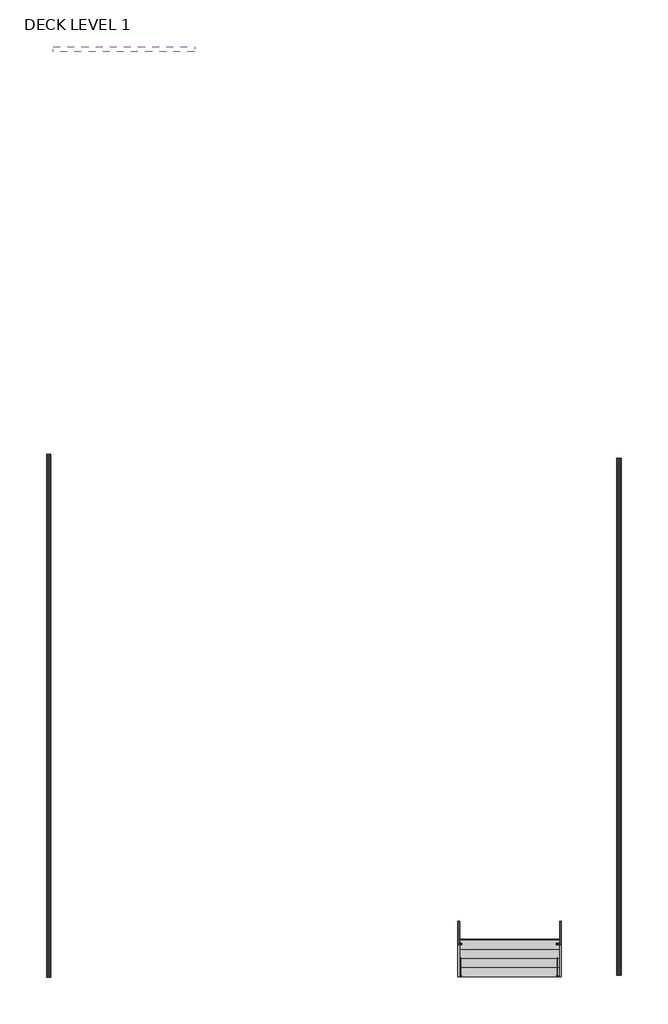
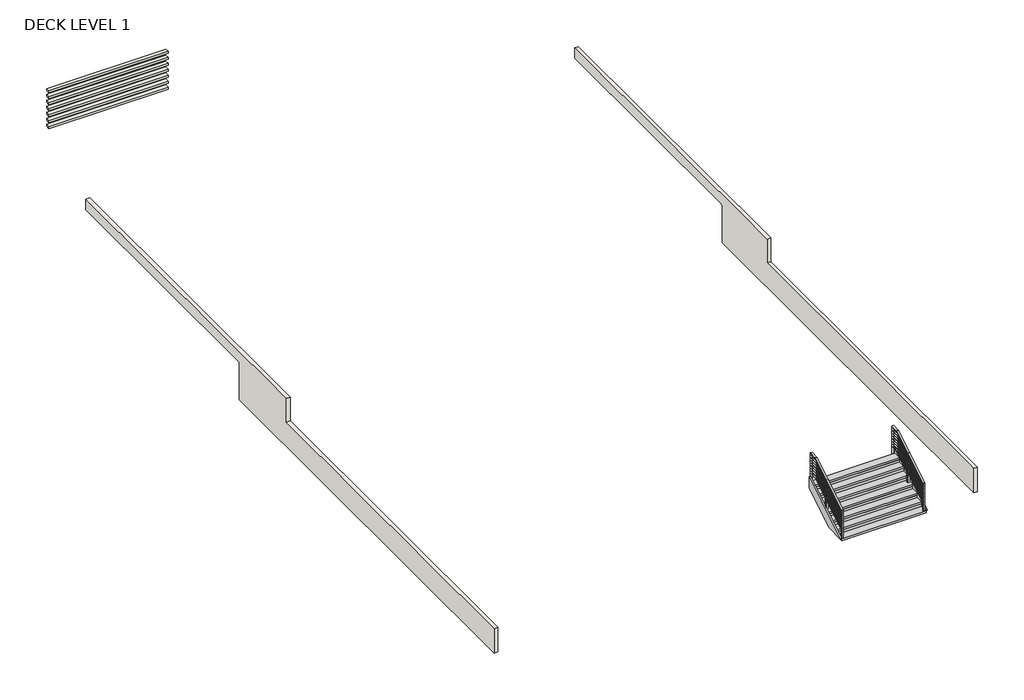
# One storey: 9 walls, 2 members, 2 railings, 1 stair flight.
"""IFC4 building model written with IfcOpenShell, lengths in millimetres."""

from ifc_helpers import new_model, si_unit, frame, origin, place, context, project, spatial, polyline, outline, extrude, faceted_brep, transform, mapped, element, save
from components import cable_guard_rail_r2_a9c70364, cable_guard_rail_r2_2a0052cb, stair_flight_f8842335

model = new_model("IFC4")

# Units and contexts
model_context = context("Model", 3, world=origin())
ifc_project = project(units=[si_unit("LENGTHUNIT", "METRE", prefix="MILLI")], contexts=[model_context])

# Site, building, storey
site = spatial("IfcSite", under=ifc_project)
building = spatial("IfcBuilding", under=site)
storey = spatial("IfcBuildingStorey", under=building, Name="DECK LEVEL 1", Elevation=292315.9)

# Members
placement = place(None, origin())
element("IfcMember", 1, ObjectType="Stringer - 2\" Width", at=placement, inside=storey, context=model_context, shape_type="SweptSolid", body=[
    extrude(outline(polyline([(175379.3989086, 292925.5), (175379.3989086, 292939.2477057), (177335.1989086, 294128.2852057), (177335.1989086, 293682.399825), (176090.204804, 292925.5), (175379.3989086, 292925.5)])), frame((35016.7412551, 0.0, 0.0), z_axis=(1.0, 0.0, 0.0), x_axis=(0.0, 1.0, 0.0)), (0.0, 0.0, 1.0), 50.8),
])
element("IfcMember", 2, ObjectType="Stringer - 2\" Width", at=placement, inside=storey, context=model_context, shape_type="SweptSolid", body=[
    extrude(outline(polyline([(175379.3989086, 292925.5), (175379.3989086, 292939.2477057), (177335.1989086, 294128.2852057), (177335.1989086, 293682.399825), (176090.204804, 292925.5), (175379.3989086, 292925.5)])), frame((38115.5412551, 0.0, 0.0), z_axis=(1.0, 0.0, 0.0), x_axis=(0.0, 1.0, 0.0)), (0.0, 0.0, 1.0), 50.8),
])

# Railings
cable_guard_rail_r2_shape = cable_guard_rail_r2_a9c70364(model_context)
element("IfcRailing", 3, ObjectType="Cable Guard Rail - R2", at=placement, inside=storey, context=model_context, shape_type="MappedRepresentation", body=[
    mapped(cable_guard_rail_r2_shape, transform((0.0, 0.0, 0.0), x_axis=(1.0, 0.0, 0.0), y_axis=(0.0, 1.0, 0.0), z_axis=(0.0, 0.0, 1.0))),
])
cable_guard_rail_r2_2_shape = cable_guard_rail_r2_2a0052cb(model_context)
element("IfcRailing", 4, ObjectType="Cable Guard Rail - R2", at=placement, inside=storey, context=model_context, shape_type="MappedRepresentation", body=[
    mapped(cable_guard_rail_r2_2_shape, transform((0.0, 0.0, 0.0), x_axis=(1.0, 0.0, 0.0), y_axis=(0.0, 1.0, 0.0), z_axis=(0.0, 0.0, 1.0))),
])

# Stair flight
stair_flight_shape = stair_flight_f8842335(model_context)
element("IfcStairFlight", 5, ObjectType="3\" Tread 1/2\" Riser", at=placement, inside=storey, context=model_context, shape_type="MappedRepresentation", body=[
    mapped(stair_flight_shape, transform((0.0, 0.0, 0.0), x_axis=(1.0, 0.0, 0.0), y_axis=(0.0, 1.0, 0.0), z_axis=(0.0, 0.0, 1.0))),
])

# Walls
element("IfcWall", 6, ObjectType="(MP-1) Metal Panel Cladding", at=placement, inside=storey, context=model_context, shape_type="Brep", body=[
    faceted_brep([(22613.0544304, 175351.2936306, 292978.84), (22613.0544304, 191169.0166306, 292978.84), (22613.0544304, 191302.3666306, 292978.84), (22613.0544304, 191302.3666306, 294424.1), (22613.0544304, 200905.7021294, 294424.1), (22613.0544304, 200905.7021294, 294830.5), (22613.0544304, 188356.9556087, 294830.5), (22613.0544304, 188356.9556087, 293916.1), (22613.0544304, 175351.2936306, 293916.1), (22479.7044304, 175351.2936306, 292978.84), (22479.7044304, 175351.2936306, 293065.2), (22479.7044304, 175351.2936306, 293916.1), (22479.7044304, 188356.9556087, 293916.1), (22479.7044304, 188356.9556087, 293954.2), (22479.7044304, 188356.9556087, 294830.5), (22479.7044304, 200905.7021294, 294830.5), (22479.7044304, 200905.7021294, 294424.1), (22479.7044304, 191302.3666306, 294424.1), (22479.7044304, 191302.3666306, 292978.84)], [[[0, 1, 2, 3, 4, 5, 6, 7, 8]], [[9, 10, 11, 12, 13, 14, 15, 16, 17, 18]], [[2, 1, 0, 9, 18]], [[5, 4, 16, 15]], [[6, 5, 15, 14]], [[4, 3, 17, 16]], [[3, 2, 18, 17]], [[8, 7, 12, 11]], [[7, 6, 14, 13, 12]], [[0, 8, 11, 10, 9]]]),
])
element("IfcWall", 7, ObjectType="(MP-1) Metal Panel Cladding", at=placement, inside=storey, context=model_context, shape_type="Brep", body=[
    faceted_brep([(39995.4390585, 175418.8258485, 292978.84), (39995.4390585, 191169.0166306, 292978.84), (39995.4390585, 191169.0166306, 294426.64), (39995.4390585, 191302.3666306, 294426.64), (39995.4390585, 200413.9854396, 294426.64), (39995.4390585, 200413.9854396, 294830.5), (39995.4390585, 188356.9556087, 294830.5), (39995.4390585, 188356.9556087, 293954.2), (39995.4390585, 188356.9556087, 293916.1), (39995.4390585, 175418.8258485, 293916.1), (39862.0890585, 175418.8258485, 292978.84), (39862.0890585, 175418.8258485, 293916.1), (39862.0890585, 188356.9556087, 293916.1), (39862.0890585, 188356.9556087, 294830.5), (39862.0890585, 200413.9854396, 294830.5), (39862.0890585, 200413.9854396, 294426.64), (39862.0890585, 191302.3666306, 294426.64), (39862.0890585, 191169.0166306, 294426.64), (39862.0890585, 191169.0166306, 292978.84)], [[[0, 1, 2, 3, 4, 5, 6, 7, 8, 9]], [[10, 11, 12, 13, 14, 15, 16, 17, 18]], [[1, 0, 10, 18]], [[5, 4, 15, 14]], [[6, 5, 14, 13]], [[0, 9, 11, 10]], [[4, 3, 2, 17, 16, 15]], [[9, 8, 12, 11]], [[8, 7, 6, 13, 12]], [[2, 1, 18, 17]]]),
])
element("IfcWall", 8, ObjectType="(MP-1) Metal Panel Cladding 5", at=placement, inside=storey, context=model_context, shape_type="SweptSolid", body=[
    extrude(outline(polyline([(26990.2154546, 203570.5736917), (22681.7404546, 203570.5736917), (22681.7404546, 203722.9736917), (26990.2154546, 203722.9736917), (26990.2154546, 203570.5736917)])), frame((0.0, 0.0, 296519.6), z_axis=(0.0, 0.0, 1.0), x_axis=(1.0, 0.0, 0.0)), (0.0, 0.0, 1.0), 76.2),
])
element("IfcWall", 9, ObjectType="(MP-1) Metal Panel Cladding 5", at=placement, inside=storey, context=model_context, shape_type="SweptSolid", body=[
    extrude(outline(polyline([(26990.2154546, 203570.5736917), (22681.7404546, 203570.5736917), (22681.7404546, 203722.9736917), (26990.2154546, 203722.9736917), (26990.2154546, 203570.5736917)])), frame((0.0, 0.0, 296748.2), z_axis=(0.0, 0.0, 1.0), x_axis=(1.0, 0.0, 0.0)), (0.0, 0.0, 1.0), 76.2),
])
element("IfcWall", 10, ObjectType="(MP-1) Metal Panel Cladding 5", at=placement, inside=storey, context=model_context, shape_type="SweptSolid", body=[
    extrude(outline(polyline([(26990.2154546, 203570.5736917), (22681.7404546, 203570.5736917), (22681.7404546, 203722.9736917), (26990.2154546, 203722.9736917), (26990.2154546, 203570.5736917)])), frame((0.0, 0.0, 296976.8), z_axis=(0.0, 0.0, 1.0), x_axis=(1.0, 0.0, 0.0)), (0.0, 0.0, 1.0), 76.2),
])
element("IfcWall", 11, ObjectType="(MP-1) Metal Panel Cladding 5", at=placement, inside=storey, context=model_context, shape_type="SweptSolid", body=[
    extrude(outline(polyline([(26990.2154546, 203570.5736917), (22681.7404546, 203570.5736917), (22681.7404546, 203722.9736917), (26990.2154546, 203722.9736917), (26990.2154546, 203570.5736917)])), frame((0.0, 0.0, 297205.4), z_axis=(0.0, 0.0, 1.0), x_axis=(1.0, 0.0, 0.0)), (0.0, 0.0, 1.0), 76.2),
])
element("IfcWall", 12, ObjectType="(MP-1) Metal Panel Cladding 5", at=placement, inside=storey, context=model_context, shape_type="SweptSolid", body=[
    extrude(outline(polyline([(26990.2154546, 203570.5736917), (22681.7404546, 203570.5736917), (22681.7404546, 203722.9736917), (26990.2154546, 203722.9736917), (26990.2154546, 203570.5736917)])), frame((0.0, 0.0, 295833.8), z_axis=(0.0, 0.0, 1.0), x_axis=(1.0, 0.0, 0.0)), (0.0, 0.0, 1.0), 76.2),
])
element("IfcWall", 13, ObjectType="(MP-1) Metal Panel Cladding 5", at=placement, inside=storey, context=model_context, shape_type="SweptSolid", body=[
    extrude(outline(polyline([(26990.2154546, 203570.5736917), (22681.7404546, 203570.5736917), (22681.7404546, 203722.9736917), (26990.2154546, 203722.9736917), (26990.2154546, 203570.5736917)])), frame((0.0, 0.0, 296062.4), z_axis=(0.0, 0.0, 1.0), x_axis=(1.0, 0.0, 0.0)), (0.0, 0.0, 1.0), 76.2),
])
element("IfcWall", 14, ObjectType="(MP-1) Metal Panel Cladding 5", at=placement, inside=storey, context=model_context, shape_type="SweptSolid", body=[
    extrude(outline(polyline([(26990.2154546, 203570.5736917), (22681.7404546, 203570.5736917), (22681.7404546, 203722.9736917), (26990.2154546, 203722.9736917), (26990.2154546, 203570.5736917)])), frame((0.0, 0.0, 296291.0), z_axis=(0.0, 0.0, 1.0), x_axis=(1.0, 0.0, 0.0)), (0.0, 0.0, 1.0), 76.2),
])

save(model, "model.ifc")
